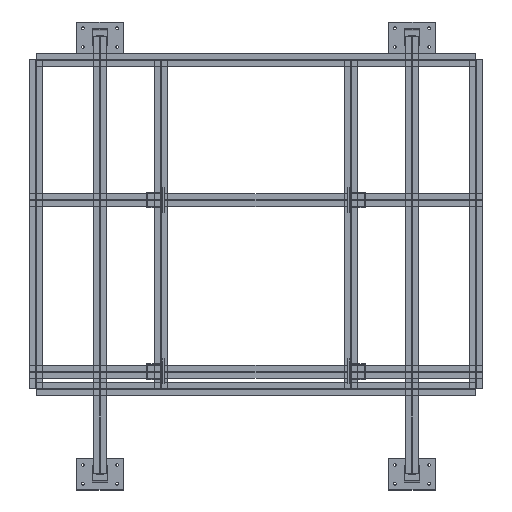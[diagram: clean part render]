
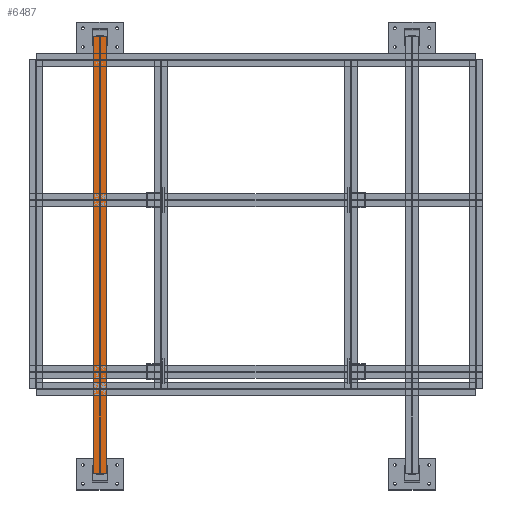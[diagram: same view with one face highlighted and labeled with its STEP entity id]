
A CAD part, top view. The second image highlights one B-rep face of the part: STEP entity #6487.
In plain terms, the highlighted planar face has unit normal (0, 0, 1).
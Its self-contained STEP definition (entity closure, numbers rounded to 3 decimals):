
#360 = DIRECTION ( 'NONE',  ( 0., 1., 0. ) ) ;
#485 = LINE ( 'NONE', #6910, #4802 ) ;
#539 = DIRECTION ( 'NONE',  ( 1., 0., 0. ) ) ;
#733 = PLANE ( 'NONE',  #4581 ) ;
#1099 = CARTESIAN_POINT ( 'NONE',  ( 4141., -2200., 4770. ) ) ;
#1109 = VECTOR ( 'NONE', #360, 1000. ) ;
#1335 = FACE_OUTER_BOUND ( 'NONE', #3323, .T. ) ;
#1596 = EDGE_CURVE ( 'NONE', #7748, #7725, #1636, .T. ) ;
#1636 = LINE ( 'NONE', #3693, #7731 ) ;
#1732 = DIRECTION ( 'NONE',  ( -1., 0., 0. ) ) ;
#1957 = LINE ( 'NONE', #8963, #4302 ) ;
#2007 = VERTEX_POINT ( 'NONE', #1099 ) ;
#2398 = EDGE_CURVE ( 'NONE', #8447, #2007, #485, .T. ) ;
#3323 = EDGE_LOOP ( 'NONE', ( #9188, #6137, #7641, #4493 ) ) ;
#3623 = EDGE_CURVE ( 'NONE', #2007, #7748, #6740, .T. ) ;
#3693 = CARTESIAN_POINT ( 'NONE',  ( 4100., 600., 4770. ) ) ;
#4226 = DIRECTION ( 'NONE',  ( 0., 0., 1. ) ) ;
#4302 = VECTOR ( 'NONE', #4792, 1000. ) ;
#4493 = ORIENTED_EDGE ( 'NONE', *, *, #2398, .T. ) ;
#4581 = AXIS2_PLACEMENT_3D ( 'NONE', #8305, #4226, #8400 ) ;
#4792 = DIRECTION ( 'NONE',  ( 0., 1., 0. ) ) ;
#4802 = VECTOR ( 'NONE', #539, 1000. ) ;
#5626 = CARTESIAN_POINT ( 'NONE',  ( 4141., 600., 4770. ) ) ;
#6137 = ORIENTED_EDGE ( 'NONE', *, *, #1596, .T. ) ;
#6487 = ADVANCED_FACE ( 'NONE', ( #1335 ), #733, .T. ) ;
#6740 = LINE ( 'NONE', #6825, #1109 ) ;
#6825 = CARTESIAN_POINT ( 'NONE',  ( 4141., -2200., 4770. ) ) ;
#6910 = CARTESIAN_POINT ( 'NONE',  ( 4100., -2200., 4770. ) ) ;
#7570 = CARTESIAN_POINT ( 'NONE',  ( 4059., 600., 4770. ) ) ;
#7641 = ORIENTED_EDGE ( 'NONE', *, *, #7649, .F. ) ;
#7649 = EDGE_CURVE ( 'NONE', #8447, #7725, #1957, .T. ) ;
#7725 = VERTEX_POINT ( 'NONE', #7570 ) ;
#7731 = VECTOR ( 'NONE', #1732, 1000. ) ;
#7748 = VERTEX_POINT ( 'NONE', #5626 ) ;
#8305 = CARTESIAN_POINT ( 'NONE',  ( 4100., -2200., 4770. ) ) ;
#8400 = DIRECTION ( 'NONE',  ( 0., 1., 0. ) ) ;
#8447 = VERTEX_POINT ( 'NONE', #8759 ) ;
#8759 = CARTESIAN_POINT ( 'NONE',  ( 4059., -2200., 4770. ) ) ;
#8963 = CARTESIAN_POINT ( 'NONE',  ( 4059., -2200., 4770. ) ) ;
#9188 = ORIENTED_EDGE ( 'NONE', *, *, #3623, .T. ) ;
